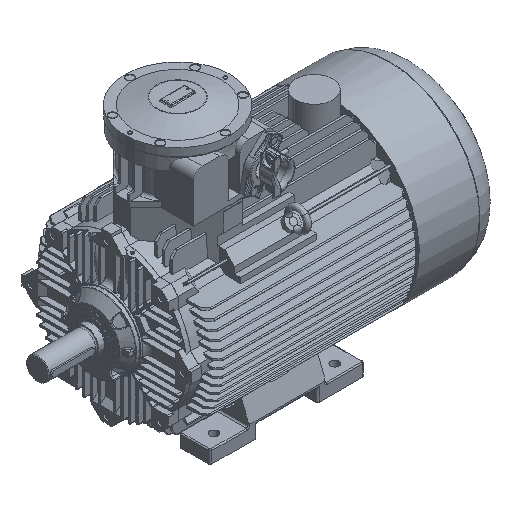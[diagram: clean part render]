
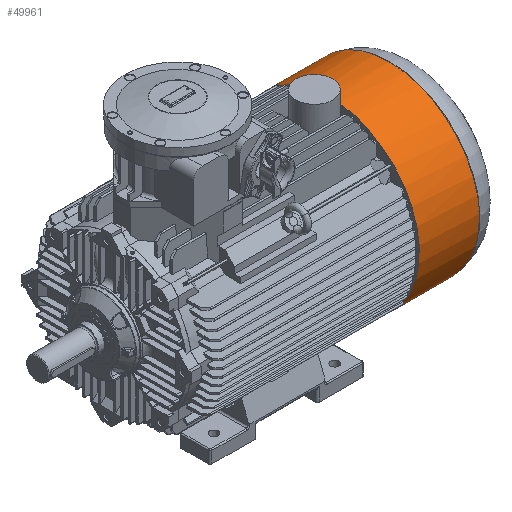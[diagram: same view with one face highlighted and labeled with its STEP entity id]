
A CAD part, isometric view. The second image highlights one B-rep face of the part: STEP entity #49961.
In plain terms, the highlighted cylindrical face has radius 260 mm (diameter 520 mm), a partial arc.
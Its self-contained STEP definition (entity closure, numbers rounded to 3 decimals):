
#467=B_SPLINE_CURVE_WITH_KNOTS('',3,(#67118,#67119,#67120,#67121,#67122,
#67123,#67124,#67125,#67126,#67127,#67128,#67129),.UNSPECIFIED.,.F.,.F.,
(4,1,1,1,1,1,1,1,1,4),(0.,0.008,0.016,0.02,
0.024,0.032,0.04,0.048,
0.056,0.064),.UNSPECIFIED.);
#1398=CYLINDRICAL_SURFACE('',#52304,260.);
#2215=LINE('',#67117,#5084);
#2216=LINE('',#67130,#5085);
#5084=VECTOR('',#56457,1000.);
#5085=VECTOR('',#56458,1000.);
#9085=ORIENTED_EDGE('',*,*,#19841,.T.);
#9086=ORIENTED_EDGE('',*,*,#19705,.F.);
#9087=ORIENTED_EDGE('',*,*,#19842,.T.);
#9088=ORIENTED_EDGE('',*,*,#19709,.F.);
#9089=ORIENTED_EDGE('',*,*,#19843,.T.);
#9090=ORIENTED_EDGE('',*,*,#19596,.T.);
#19596=EDGE_CURVE('',#24975,#24974,#28435,.T.);
#19705=EDGE_CURVE('',#25081,#25082,#28476,.T.);
#19709=EDGE_CURVE('',#25085,#25086,#28479,.T.);
#19841=EDGE_CURVE('',#24974,#25082,#2215,.T.);
#19842=EDGE_CURVE('',#25081,#25086,#467,.T.);
#19843=EDGE_CURVE('',#25085,#24975,#2216,.F.);
#24974=VERTEX_POINT('',#66594);
#24975=VERTEX_POINT('',#66596);
#25081=VERTEX_POINT('',#66844);
#25082=VERTEX_POINT('',#66846);
#25085=VERTEX_POINT('',#66852);
#25086=VERTEX_POINT('',#66854);
#28435=CIRCLE('',#52213,260.);
#28476=CIRCLE('',#52257,260.);
#28479=CIRCLE('',#52260,260.);
#30005=EDGE_LOOP('',(#9085,#9086,#9087,#9088,#9089,#9090));
#32385=FACE_BOUND('',#30005,.T.);
#49961=ADVANCED_FACE('',(#32385),#1398,.T.);
#52213=AXIS2_PLACEMENT_3D('',#66595,#56117,#56118);
#52257=AXIS2_PLACEMENT_3D('',#66845,#56272,#56273);
#52260=AXIS2_PLACEMENT_3D('',#66853,#56279,#56280);
#52304=AXIS2_PLACEMENT_3D('',#67116,#56455,#56456);
#56117=DIRECTION('',(-1.,0.,0.));
#56118=DIRECTION('',(0.,0.,1.));
#56272=DIRECTION('',(-1.,0.,0.));
#56273=DIRECTION('',(0.,0.,1.));
#56279=DIRECTION('',(-1.,0.,0.));
#56280=DIRECTION('',(0.,0.,1.));
#56455=DIRECTION('',(-1.,0.,0.));
#56456=DIRECTION('',(0.,0.,1.));
#56457=DIRECTION('',(-1.,0.,0.));
#56458=DIRECTION('',(-1.,0.,0.));
#66594=CARTESIAN_POINT('',(789.503,104.77,-237.847));
#66595=CARTESIAN_POINT('',(789.503,0.,0.109));
#66596=CARTESIAN_POINT('',(789.503,-104.77,-237.847));
#66844=CARTESIAN_POINT('',(614.503,30.274,258.341));
#66845=CARTESIAN_POINT('',(614.503,0.,0.109));
#66846=CARTESIAN_POINT('',(614.503,104.77,-237.847));
#66852=CARTESIAN_POINT('',(614.503,-104.77,-237.847));
#66853=CARTESIAN_POINT('',(614.503,0.,0.109));
#66854=CARTESIAN_POINT('',(614.503,-30.274,258.341));
#67116=CARTESIAN_POINT('',(-63.033,0.,0.109));
#67117=CARTESIAN_POINT('',(-63.033,104.77,-237.847));
#67118=CARTESIAN_POINT('',(614.503,30.274,258.341));
#67119=CARTESIAN_POINT('',(616.045,28.057,258.601));
#67120=CARTESIAN_POINT('',(618.756,23.444,259.084));
#67121=CARTESIAN_POINT('',(621.245,17.242,259.56));
#67122=CARTESIAN_POINT('',(622.675,12.006,259.842));
#67123=CARTESIAN_POINT('',(623.688,6.742,260.045));
#67124=CARTESIAN_POINT('',(624.207,0.074,260.152));
#67125=CARTESIAN_POINT('',(623.589,-8.072,260.025));
#67126=CARTESIAN_POINT('',(621.784,-15.862,259.663));
#67127=CARTESIAN_POINT('',(618.772,-23.427,259.086));
#67128=CARTESIAN_POINT('',(616.045,-28.057,258.601));
#67129=CARTESIAN_POINT('',(614.503,-30.274,258.341));
#67130=CARTESIAN_POINT('',(-63.033,-104.77,-237.847));
